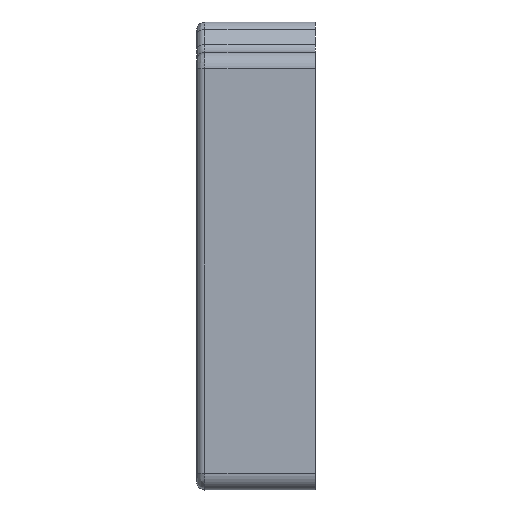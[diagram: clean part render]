
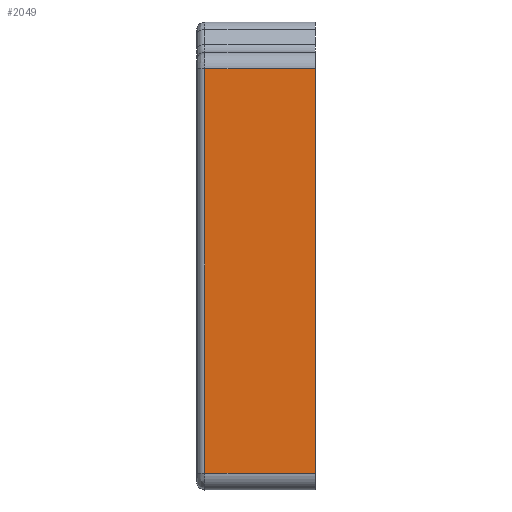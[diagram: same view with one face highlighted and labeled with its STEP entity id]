
A CAD part, left-side view. The second image highlights one B-rep face of the part: STEP entity #2049.
In plain terms, the highlighted planar face has unit normal (-1, 0, 0).
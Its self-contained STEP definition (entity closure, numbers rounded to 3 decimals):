
#212=DIRECTION('',(0.,0.,-1.));
#213=VECTOR('',#212,242.6);
#214=CARTESIAN_POINT('',(0.,66.3,252.6));
#215=LINE('',#214,#213);
#362=DIRECTION('',(0.,-1.,0.));
#363=VECTOR('',#362,66.3);
#364=CARTESIAN_POINT('',(0.,66.3,10.));
#365=LINE('',#364,#363);
#370=DIRECTION('',(0.,0.,-1.));
#371=VECTOR('',#370,242.6);
#372=CARTESIAN_POINT('',(0.,0.,252.6));
#373=LINE('',#372,#371);
#378=DIRECTION('',(0.,1.,0.));
#379=VECTOR('',#378,66.3);
#380=CARTESIAN_POINT('',(0.,0.,252.6));
#381=LINE('',#380,#379);
#1369=CARTESIAN_POINT('',(0.,66.3,
10.));
#1370=VERTEX_POINT('',#1369);
#1371=CARTESIAN_POINT('',(0.,66.3,252.6));
#1372=VERTEX_POINT('',#1371);
#1403=CARTESIAN_POINT('',(0.,0.,10.));
#1404=VERTEX_POINT('',#1403);
#1405=CARTESIAN_POINT('',(0.,0.,252.6));
#1406=VERTEX_POINT('',#1405);
#2036=CARTESIAN_POINT('',(0.,71.3,262.6));
#2037=DIRECTION('',(-1.,0.,0.));
#2038=DIRECTION('',(0.,0.,-1.));
#2039=AXIS2_PLACEMENT_3D('',#2036,#2037,#2038);
#2040=PLANE('',#2039);
#2041=ORIENTED_EDGE('',*,*,#1758,.F.);
#2043=ORIENTED_EDGE('',*,*,#2042,.F.);
#2045=ORIENTED_EDGE('',*,*,#2044,.T.);
#2046=ORIENTED_EDGE('',*,*,#2028,.F.);
#2047=EDGE_LOOP('',(#2041,#2043,#2045,#2046));
#2048=FACE_OUTER_BOUND('',#2047,.F.);
#1758=EDGE_CURVE('',#1372,#1370,#215,.T.);
#2028=EDGE_CURVE('',#1370,#1404,#365,.T.);
#2042=EDGE_CURVE('',#1406,#1372,#381,.T.);
#2044=EDGE_CURVE('',#1406,#1404,#373,.T.);
#2049=ADVANCED_FACE('',(#2048),#2040,.T.);
